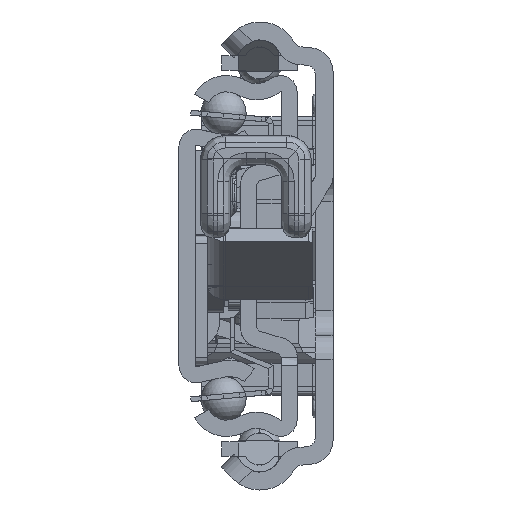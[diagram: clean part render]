
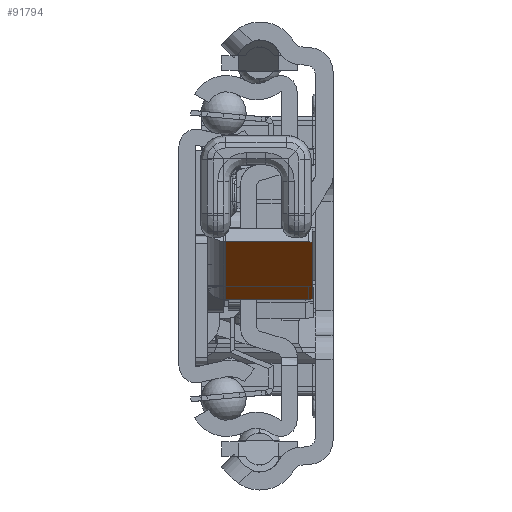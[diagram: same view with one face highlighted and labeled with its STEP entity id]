
A CAD part, left-side view. The second image highlights one B-rep face of the part: STEP entity #91794.
In plain terms, the highlighted planar face has unit normal (-0.596, 0, -0.803) as drawn and (-0.597, -0.802, 0) by its records, which use the part's own axes.
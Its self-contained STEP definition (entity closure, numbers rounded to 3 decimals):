
#91186=DIRECTION('',(0.802,-0.597,0.));
#91187=VECTOR('',#91186,12.);
#91188=CARTESIAN_POINT('',(31.957,-10.314,2.2));
#91189=LINE('',#91188,#91187);
#91214=CARTESIAN_POINT('',(41.184,-17.178,12.5));
#91215=DIRECTION('',(-0.597,-0.802,0.));
#91216=DIRECTION('',(0.802,-0.597,0.));
#91217=AXIS2_PLACEMENT_3D('',#91214,#91215,#91216);
#91219=DIRECTION('',(0.,0.,1.));
#91220=VECTOR('',#91219,10.3);
#91221=CARTESIAN_POINT('',(41.586,-17.476,2.2));
#91222=LINE('',#91221,#91220);
#91223=DIRECTION('',(0.,0.,-1.));
#91224=VECTOR('',#91223,10.3);
#91225=CARTESIAN_POINT('',(31.957,-10.314,12.5));
#91226=LINE('',#91225,#91224);
#91227=CARTESIAN_POINT('',(32.358,-10.613,12.5));
#91228=DIRECTION('',(-0.597,-0.802,0.));
#91229=DIRECTION('',(0.,0.,1.));
#91230=AXIS2_PLACEMENT_3D('',#91227,#91228,#91229);
#91232=DIRECTION('',(-0.802,0.597,0.));
#91233=VECTOR('',#91232,11.);
#91234=CARTESIAN_POINT('',(41.184,-17.178,13.));
#91235=LINE('',#91234,#91233);
#91448=CARTESIAN_POINT('',(31.957,-10.314,2.2));
#91449=CARTESIAN_POINT('',(41.586,-17.476,2.2));
#91450=VERTEX_POINT('',#91448);
#91451=VERTEX_POINT('',#91449);
#91480=CARTESIAN_POINT('',(41.586,-17.476,12.5));
#91481=CARTESIAN_POINT('',(41.184,-17.178,13.));
#91482=VERTEX_POINT('',#91480);
#91483=VERTEX_POINT('',#91481);
#91488=CARTESIAN_POINT('',(32.358,-10.613,13.));
#91489=CARTESIAN_POINT('',(31.957,-10.314,12.5));
#91490=VERTEX_POINT('',#91488);
#91491=VERTEX_POINT('',#91489);
#91776=CARTESIAN_POINT('',(34.726,-12.374,0.));
#91777=DIRECTION('',(-0.597,-0.802,0.));
#91778=DIRECTION('',(0.802,-0.597,0.));
#91779=AXIS2_PLACEMENT_3D('',#91776,#91777,#91778);
#91780=PLANE('',#91779);
#91782=ORIENTED_EDGE('',*,*,#91781,.F.);
#91784=ORIENTED_EDGE('',*,*,#91783,.F.);
#91785=ORIENTED_EDGE('',*,*,#91763,.F.);
#91787=ORIENTED_EDGE('',*,*,#91786,.F.);
#91789=ORIENTED_EDGE('',*,*,#91788,.F.);
#91791=ORIENTED_EDGE('',*,*,#91790,.F.);
#91792=EDGE_LOOP('',(#91782,#91784,#91785,#91787,#91789,#91791));
#91793=FACE_OUTER_BOUND('',#91792,.F.);
#91218=CIRCLE('',#91217,0.5);
#91231=CIRCLE('',#91230,0.5);
#91763=EDGE_CURVE('',#91450,#91451,#91189,.T.);
#91781=EDGE_CURVE('',#91482,#91483,#91218,.T.);
#91783=EDGE_CURVE('',#91451,#91482,#91222,.T.);
#91786=EDGE_CURVE('',#91491,#91450,#91226,.T.);
#91788=EDGE_CURVE('',#91490,#91491,#91231,.T.);
#91790=EDGE_CURVE('',#91483,#91490,#91235,.T.);
#91794=ADVANCED_FACE('',(#91793),#91780,.T.);
